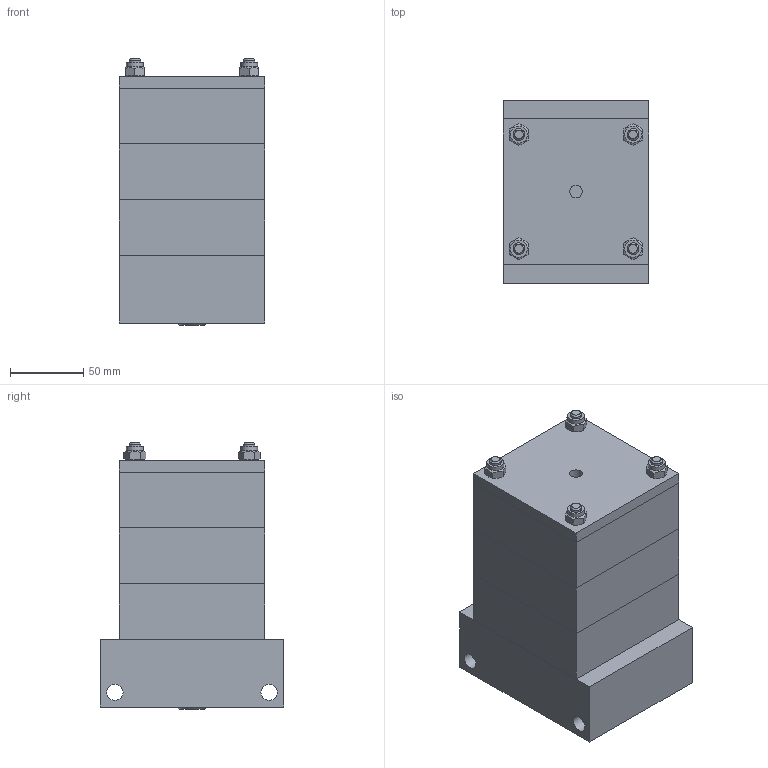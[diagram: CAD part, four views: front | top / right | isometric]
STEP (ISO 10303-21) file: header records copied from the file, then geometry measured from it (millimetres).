
FILE_DESCRIPTION((''),'2;1');
FILE_NAME('C:\VaultWork\Zeichnungen\Maßblätter\Multizylinder\M 90\M90-20\M02012-4-0 Multizylinder M90-4-20.stp','2017-01-27T08:57:05',('Azubi'),(''),'Autodesk Inventor 2012','Autodesk Inventor 2012','');
FILE_SCHEMA(('AUTOMOTIVE_DESIGN { 1 0 10303 214 1 1 1 1 }'));
Length unit declared in the file: millimetre
Products named in the file (1): M02012-4-0 Multizylinder M90-4-20
Bounding box: 99 x 125 x 181.5 mm (x, y, z)
Volume: 1853041.7 mm3; surface area: 258302.4 mm2
Topology: 14 solids, 15 shells, 205 faces, 468 edges, 307 vertices
Faces by surface type: plane 100, cylinder 70, cone 33, torus 1, bspline 1
Full cylindrical faces by diameter (mm): 3 x5, 4 x1, 6.647 x10, 8 x5, 8.566 x2, 9 x4, 10 x12, 11 x2, 11.6 x4, 15 x1, 20 x8, 26.4 x3, 90 x5, 95.2 x4
Entity records: 5265 total; most frequent: CARTESIAN_POINT 988, DIRECTION 848, ORIENTED_EDGE 662, EDGE_LOOP 388, AXIS2_PLACEMENT_3D 367, EDGE_CURVE 331, VERTEX_POINT 269, FACE_OUTER_BOUND 205
